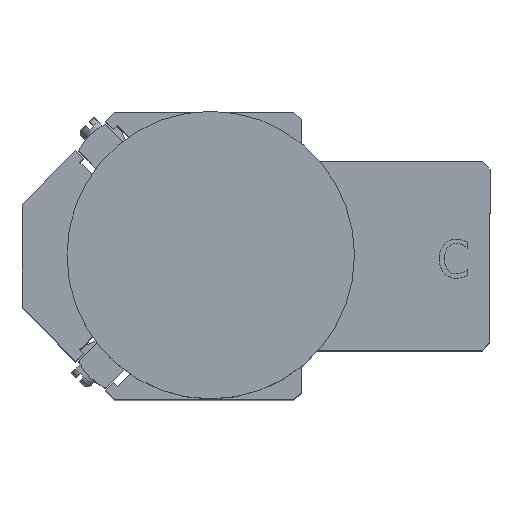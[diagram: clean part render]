
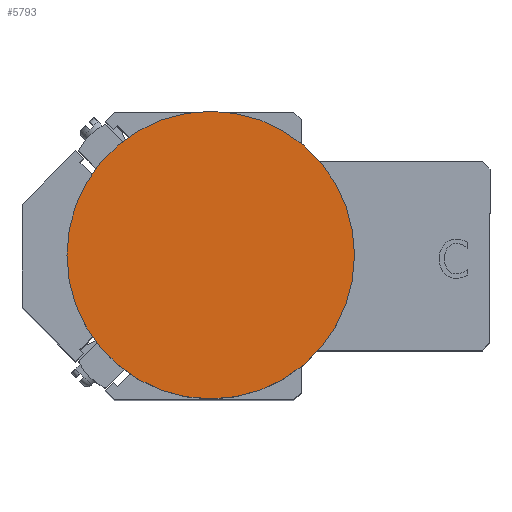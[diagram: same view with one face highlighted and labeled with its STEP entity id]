
A CAD part, top view. The second image highlights one B-rep face of the part: STEP entity #5793.
In plain terms, the highlighted planar face has unit normal (0, 0, 1) as drawn and (1, 0, 0) by its records, which use the part's own axes.
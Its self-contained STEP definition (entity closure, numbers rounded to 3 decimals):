
#519=PLANE('',#6600);
#811=FACE_OUTER_BOUND('',#1155,.T.);
#1155=EDGE_LOOP('',(#5373,#5374));
#2411=CIRCLE('',#6601,19.05);
#2412=CIRCLE('',#6602,19.05);
#2968=VERTEX_POINT('',#10208);
#2969=VERTEX_POINT('',#10209);
#3777=EDGE_CURVE('',#2968,#2969,#2411,.T.);
#3778=EDGE_CURVE('',#2969,#2968,#2412,.T.);
#5373=ORIENTED_EDGE('',*,*,#3777,.F.);
#5374=ORIENTED_EDGE('',*,*,#3778,.F.);
#5793=ADVANCED_FACE('',(#811),#519,.T.);
#6600=AXIS2_PLACEMENT_3D('',#10207,#8181,#8182);
#6601=AXIS2_PLACEMENT_3D('',#10210,#8183,#8184);
#6602=AXIS2_PLACEMENT_3D('',#10211,#8185,#8186);
#8181=DIRECTION('center_axis',(1.,0.,0.));
#8182=DIRECTION('ref_axis',(0.,0.,-1.));
#8183=DIRECTION('center_axis',(-1.,0.,0.));
#8184=DIRECTION('ref_axis',(0.,-1.,0.));
#8185=DIRECTION('center_axis',(-1.,0.,0.));
#8186=DIRECTION('ref_axis',(0.,-1.,0.));
#10207=CARTESIAN_POINT('Origin',(13.,-9.525,0.));
#10208=CARTESIAN_POINT('',(13.,-19.05,0.));
#10209=CARTESIAN_POINT('',(13.,19.05,0.));
#10210=CARTESIAN_POINT('Origin',(13.,0.,0.));
#10211=CARTESIAN_POINT('Origin',(13.,0.,0.));
